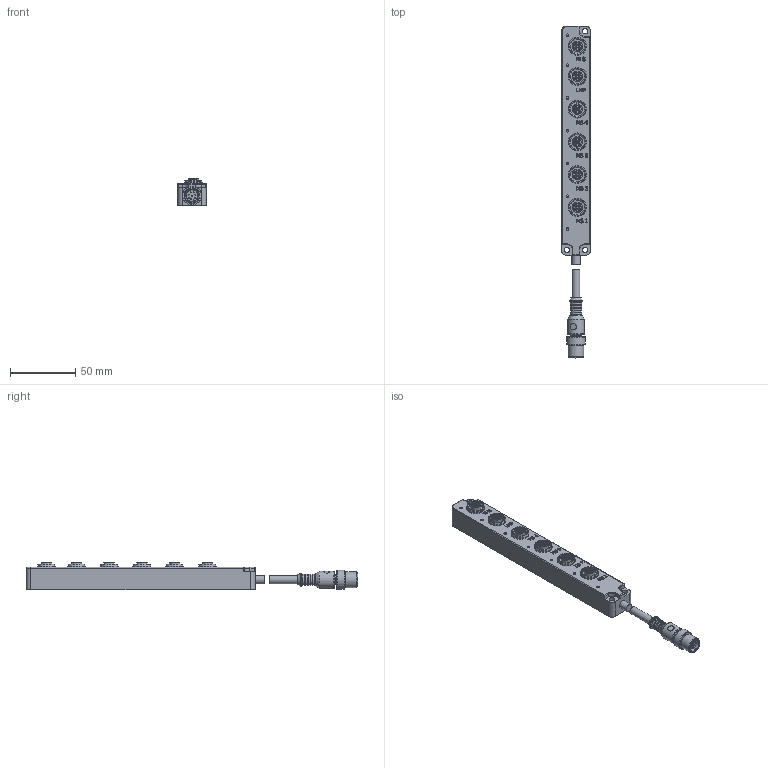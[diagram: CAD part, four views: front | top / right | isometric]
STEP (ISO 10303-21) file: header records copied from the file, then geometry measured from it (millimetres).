
FILE_DESCRIPTION((''),'2;1');
FILE_NAME('M:\cam\INVENTORjob\Konstruktion\520143_AC-SCM7U.stp','2020-08-07T09:48:54',('phaberl'),(''),'Autodesk Inventor 2009','Autodesk Inventor 2009','');
FILE_SCHEMA(('AUTOMOTIVE_DESIGN { 1 0 10303 214 1 1 1 1 }'));
Length unit declared in the file: millimetre
Products named in the file (2): 520143_AC-SCM7U; 150027_SCM7U
Assembly tree (1 placements, depth 2):
  520143_AC-SCM7U
    150027_SCM7U
Bounding box: 22 x 253.58 x 20.95 mm (x, y, z)
Volume: 70570 mm3; surface area: 20838 mm2
Topology: 2 solids, 2 shells, 2050 faces, 6016 edges, 4134 vertices
Faces by surface type: plane 866, cylinder 490, bspline 478, cone 193, sphere 13, torus 10
Full cylindrical faces by diameter (mm): 0.8 x8, 1.2 x24, 4.2 x3, 6 x1, 6.2 x1, 7.5 x2, 8 x1, 8.5 x4, 9 x1, 10 x1, 10.8 x1, 10.9 x6, 11.25 x1, 12 x1, 12.2 x6, 13 x1, 13.6 x6, 14.25 x2, 14.5 x1
Entity records: 85420 total; most frequent: CARTESIAN_POINT 34454, ORIENTED_EDGE 11586, DIRECTION 9151, EDGE_CURVE 5793, VERTEX_POINT 4080, AXIS2_PLACEMENT_3D 3567, EDGE_LOOP 2389, FACE_OUTER_BOUND 2050
